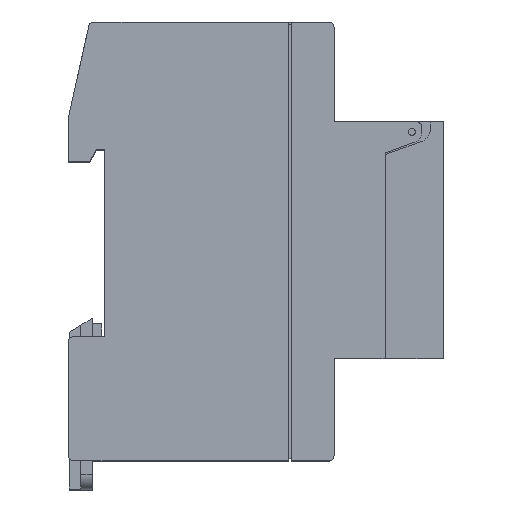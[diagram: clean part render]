
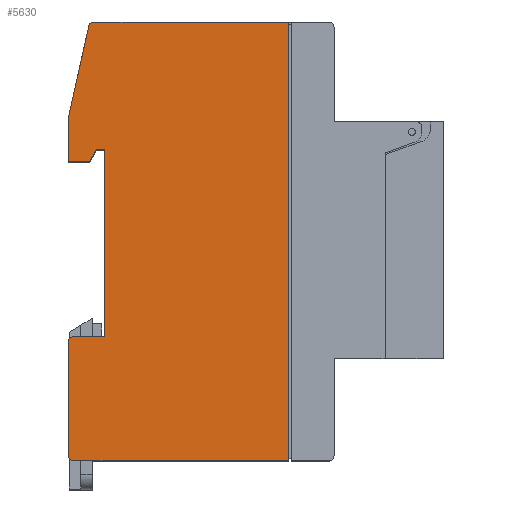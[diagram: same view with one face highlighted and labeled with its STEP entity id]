
A CAD part, top view. The second image highlights one B-rep face of the part: STEP entity #5630.
In plain terms, the highlighted planar face has unit normal (0, 0, 1).
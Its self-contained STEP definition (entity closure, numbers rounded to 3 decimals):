
#96 = EDGE_CURVE ( 'NONE', #22764, #22765, #47163, .T. ) ;
#323 = AXIS2_PLACEMENT_3D ( 'NONE', #40078, #40079, #40080 ) ;
#1152 = EDGE_CURVE ( 'NONE', #22719, #22722, #27494, .T. ) ;
#1250 = EDGE_CURVE ( 'NONE', #22760, #22761, #27829, .T. ) ;
#1292 = EDGE_CURVE ( 'NONE', #22761, #22762, #27986, .T. ) ;
#1369 = EDGE_CURVE ( 'NONE', #22762, #22763, #20821, .T. ) ;
#1374 = EDGE_CURVE ( 'NONE', #22678, #22640, #42522, .T. ) ;
#5506 = VECTOR ( 'NONE', #23680, 1000. ) ;
#5630 = ADVANCED_FACE ( 'NONE', ( #40064 ), #40065, .F. ) ;
#6416 = EDGE_CURVE ( 'NONE', #22765, #21002, #36995, .T. ) ;
#8416 = VECTOR ( 'NONE', #34397, 1000. ) ;
#9041 = VECTOR ( 'NONE', #16651, 1000. ) ;
#10620 = EDGE_CURVE ( 'NONE', #22675, #22678, #34395, .T. ) ;
#11590 = EDGE_CURVE ( 'NONE', #21002, #21096, #23678, .T. ) ;
#11745 = EDGE_CURVE ( 'NONE', #21096, #22675, #18086, .T. ) ;
#11782 = EDGE_CURVE ( 'NONE', #22719, #22630, #24026, .T. ) ;
#11850 = EDGE_CURVE ( 'NONE', #22722, #22760, #17462, .T. ) ;
#12058 = EDGE_CURVE ( 'NONE', #22630, #22640, #24527, .T. ) ;
#14481 = VECTOR ( 'NONE', #37034, 1000. ) ;
#16645 = CARTESIAN_POINT ( 'NONE',  ( -26.417, -19.7, 18. ) ) ;
#16649 = LINE ( 'NONE', #16650, #9041 ) ;
#16650 = CARTESIAN_POINT ( 'NONE',  ( -28.017, 15.8, 18. ) ) ;
#16651 = DIRECTION ( 'NONE',  ( 0.492, 0.871, 0. ) ) ;
#16738 = CARTESIAN_POINT ( 'NONE',  ( -32.317, -19.7, 18. ) ) ;
#17423 = VECTOR ( 'NONE', #24529, 1000. ) ;
#17460 = AXIS2_PLACEMENT_3D ( 'NONE', #24165, #24166, #24167 ) ;
#17462 = CIRCLE ( 'NONE', #17460, 1. ) ;
#17583 = VECTOR ( 'NONE', #24028, 1000. ) ;
#18085 = AXIS2_PLACEMENT_3D ( 'NONE', #23968, #23969, #23970 ) ;
#18086 = CIRCLE ( 'NONE', #18085, 1. ) ;
#18968 = CARTESIAN_POINT ( 'NONE',  ( 8.583, -43.4, 18. ) ) ;
#18988 = CARTESIAN_POINT ( 'NONE',  ( -32.317, -43.4, 18. ) ) ;
#19058 = CARTESIAN_POINT ( 'NONE',  ( -33.317, -20.7, 18. ) ) ;
#19064 = CARTESIAN_POINT ( 'NONE',  ( -33.317, -42.4, 18. ) ) ;
#19146 = CARTESIAN_POINT ( 'NONE',  ( 8.583, 40.1, 18. ) ) ;
#19152 = CARTESIAN_POINT ( 'NONE',  ( -28.515, 40.1, 18. ) ) ;
#19228 = CARTESIAN_POINT ( 'NONE',  ( -29.491, 39.317, 18. ) ) ;
#19230 = CARTESIAN_POINT ( 'NONE',  ( -33.317, 22.1, 18. ) ) ;
#19232 = CARTESIAN_POINT ( 'NONE',  ( -33.317, 13.5, 18. ) ) ;
#19234 = CARTESIAN_POINT ( 'NONE',  ( -29.317, 13.5, 18. ) ) ;
#19236 = CARTESIAN_POINT ( 'NONE',  ( -28.017, 15.8, 18. ) ) ;
#19238 = CARTESIAN_POINT ( 'NONE',  ( -26.417, 15.8, 18. ) ) ;
#20821 = LINE ( 'NONE', #20839, #43058 ) ;
#20839 = CARTESIAN_POINT ( 'NONE',  ( -33.317, 13.5, 18. ) ) ;
#20842 = DIRECTION ( 'NONE',  ( 1., 0., 0. ) ) ;
#20904 = CARTESIAN_POINT ( 'NONE',  ( -32.317, -42.4, 18. ) ) ;
#20907 = DIRECTION ( 'NONE',  ( 0., 0., 1. ) ) ;
#20910 = DIRECTION ( 'NONE',  ( -1., 0., 0. ) ) ;
#21002 = VERTEX_POINT ( 'NONE', #16645 ) ;
#21008 = EDGE_CURVE ( 'NONE', #22763, #22764, #16649, .T. ) ;
#21096 = VERTEX_POINT ( 'NONE', #16738 ) ;
#22630 = VERTEX_POINT ( 'NONE', #18968 ) ;
#22640 = VERTEX_POINT ( 'NONE', #18988 ) ;
#22675 = VERTEX_POINT ( 'NONE', #19058 ) ;
#22678 = VERTEX_POINT ( 'NONE', #19064 ) ;
#22719 = VERTEX_POINT ( 'NONE', #19146 ) ;
#22722 = VERTEX_POINT ( 'NONE', #19152 ) ;
#22760 = VERTEX_POINT ( 'NONE', #19228 ) ;
#22761 = VERTEX_POINT ( 'NONE', #19230 ) ;
#22762 = VERTEX_POINT ( 'NONE', #19232 ) ;
#22763 = VERTEX_POINT ( 'NONE', #19234 ) ;
#22764 = VERTEX_POINT ( 'NONE', #19236 ) ;
#22765 = VERTEX_POINT ( 'NONE', #19238 ) ;
#23678 = LINE ( 'NONE', #23679, #5506 ) ;
#23679 = CARTESIAN_POINT ( 'NONE',  ( 26.883, -19.7, 18. ) ) ;
#23680 = DIRECTION ( 'NONE',  ( -1., 0., 0. ) ) ;
#23968 = CARTESIAN_POINT ( 'NONE',  ( -32.317, -20.7, 18. ) ) ;
#23969 = DIRECTION ( 'NONE',  ( 0., 0., 1. ) ) ;
#23970 = DIRECTION ( 'NONE',  ( -1., 0., 0. ) ) ;
#24026 = LINE ( 'NONE', #24027, #17583 ) ;
#24027 = CARTESIAN_POINT ( 'NONE',  ( 8.583, 40.101, 18. ) ) ;
#24028 = DIRECTION ( 'NONE',  ( 0., -1., 0. ) ) ;
#24165 = CARTESIAN_POINT ( 'NONE',  ( -28.515, 39.1, 18. ) ) ;
#24166 = DIRECTION ( 'NONE',  ( 0., 0., 1. ) ) ;
#24167 = DIRECTION ( 'NONE',  ( -1., 0., 0. ) ) ;
#24527 = LINE ( 'NONE', #24528, #17423 ) ;
#24528 = CARTESIAN_POINT ( 'NONE',  ( 26.883, -43.4, 18. ) ) ;
#24529 = DIRECTION ( 'NONE',  ( -1., 0., 0. ) ) ;
#24855 = VECTOR ( 'NONE', #27503, 1000. ) ;
#25281 = VECTOR ( 'NONE', #47198, 1000. ) ;
#27494 = LINE ( 'NONE', #27502, #24855 ) ;
#27502 = CARTESIAN_POINT ( 'NONE',  ( 26.883, 40.1, 18. ) ) ;
#27503 = DIRECTION ( 'NONE',  ( -1., 0., 0. ) ) ;
#27829 = LINE ( 'NONE', #27851, #43113 ) ;
#27851 = CARTESIAN_POINT ( 'NONE',  ( -44.355, -27.569, 18. ) ) ;
#27853 = DIRECTION ( 'NONE',  ( -0.217, -0.976, 0. ) ) ;
#27980 = CARTESIAN_POINT ( 'NONE',  ( -33.317, -43.4, 18. ) ) ;
#27986 = LINE ( 'NONE', #27980, #43350 ) ;
#27990 = DIRECTION ( 'NONE',  ( 0., -1., 0. ) ) ;
#34395 = LINE ( 'NONE', #34396, #8416 ) ;
#34396 = CARTESIAN_POINT ( 'NONE',  ( -33.317, -43.4, 18. ) ) ;
#34397 = DIRECTION ( 'NONE',  ( 0., -1., 0. ) ) ;
#36995 = LINE ( 'NONE', #37025, #14481 ) ;
#37025 = CARTESIAN_POINT ( 'NONE',  ( -26.417, -43.4, 18. ) ) ;
#37034 = DIRECTION ( 'NONE',  ( 0., -1., 0. ) ) ;
#37441 = EDGE_LOOP ( 'NONE', ( #48029, #48026, #48023, #48020, #48017, #48014, #48011, #48008, #48005, #48002, #47999, #47996, #47993, #47990 ) ) ;
#40064 = FACE_OUTER_BOUND ( 'NONE', #37441, .T. ) ;
#40065 = PLANE ( 'NONE',  #323 ) ;
#40078 = CARTESIAN_POINT ( 'NONE',  ( 26.883, -43.4, 18. ) ) ;
#40079 = DIRECTION ( 'NONE',  ( 0., 0., -1. ) ) ;
#40080 = DIRECTION ( 'NONE',  ( -1., 0., 0. ) ) ;
#42522 = CIRCLE ( 'NONE', #43808, 1. ) ;
#43058 = VECTOR ( 'NONE', #20842, 1000. ) ;
#43113 = VECTOR ( 'NONE', #27853, 1000. ) ;
#43350 = VECTOR ( 'NONE', #27990, 1000. ) ;
#43808 = AXIS2_PLACEMENT_3D ( 'NONE', #20904, #20907, #20910 ) ;
#47163 = LINE ( 'NONE', #47191, #25281 ) ;
#47191 = CARTESIAN_POINT ( 'NONE',  ( 26.883, 15.8, 18. ) ) ;
#47198 = DIRECTION ( 'NONE',  ( 1., 0., 0. ) ) ;
#47990 = ORIENTED_EDGE ( 'NONE', *, *, #6416, .T. ) ;
#47993 = ORIENTED_EDGE ( 'NONE', *, *, #96, .T. ) ;
#47996 = ORIENTED_EDGE ( 'NONE', *, *, #21008, .T. ) ;
#47999 = ORIENTED_EDGE ( 'NONE', *, *, #1369, .T. ) ;
#48002 = ORIENTED_EDGE ( 'NONE', *, *, #1292, .T. ) ;
#48005 = ORIENTED_EDGE ( 'NONE', *, *, #1250, .T. ) ;
#48008 = ORIENTED_EDGE ( 'NONE', *, *, #11850, .T. ) ;
#48011 = ORIENTED_EDGE ( 'NONE', *, *, #1152, .T. ) ;
#48014 = ORIENTED_EDGE ( 'NONE', *, *, #11782, .F. ) ;
#48017 = ORIENTED_EDGE ( 'NONE', *, *, #12058, .F. ) ;
#48020 = ORIENTED_EDGE ( 'NONE', *, *, #1374, .T. ) ;
#48023 = ORIENTED_EDGE ( 'NONE', *, *, #10620, .T. ) ;
#48026 = ORIENTED_EDGE ( 'NONE', *, *, #11745, .T. ) ;
#48029 = ORIENTED_EDGE ( 'NONE', *, *, #11590, .T. ) ;
